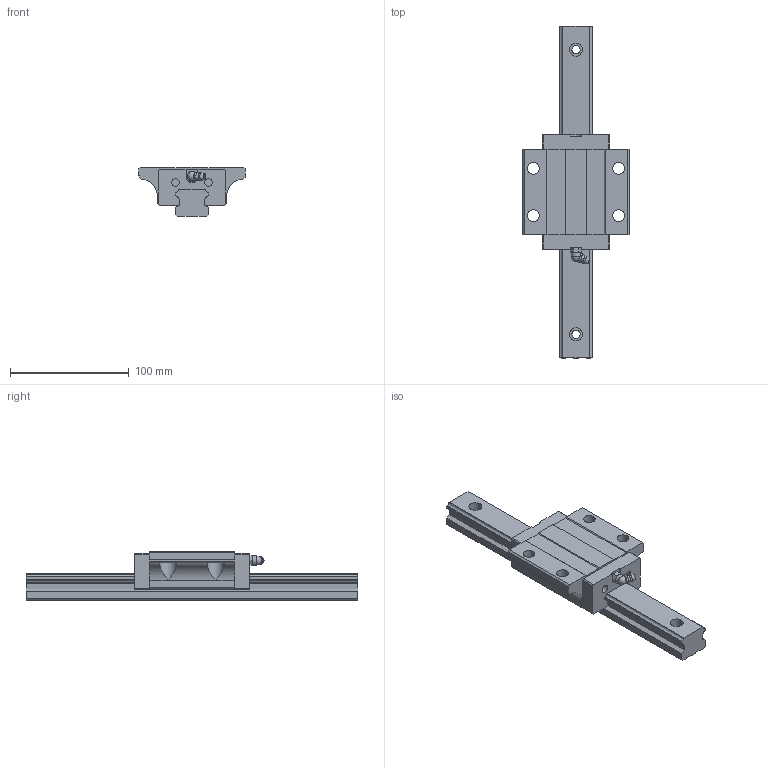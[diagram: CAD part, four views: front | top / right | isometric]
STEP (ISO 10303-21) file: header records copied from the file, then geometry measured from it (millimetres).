
FILE_DESCRIPTION(/* description */ (''),/* implementation_level */ '2;1');
FILE_NAME(/* name */ 'MSB30E',/* time_stamp */ '2004-05-24T09:10:23+08:00',/* author */ (''),/* organization */ (''),/* preprocessor_version */ 'ST-DEVELOPER v8',/* originating_system */ '',/* authorisation */ '');
FILE_SCHEMA (('CONFIG_CONTROL_DESIGN'));
Length unit declared in the file: millimetre
Products named in the file (1): zirc812C0002
Bounding box: 90 x 280 x 42 mm (x, y, z)
Volume: 322771.9 mm3; surface area: 63673.2 mm2
Topology: 3 solids, 3 shells, 197 faces, 546 edges, 361 vertices
Faces by surface type: plane 147, cylinder 39, torus 7, sphere 2, cone 1, bspline 1
Full cylindrical faces by diameter (mm): 6.5 x6, 7 x4, 8 x1, 10 x4, 11 x4
Entity records: 6285 total; most frequent: CARTESIAN_POINT 1252, ORIENTED_EDGE 1018, DIRECTION 996, EDGE_CURVE 509, LINE 364, VECTOR 364, VERTEX_POINT 348, AXIS2_PLACEMENT_3D 316
